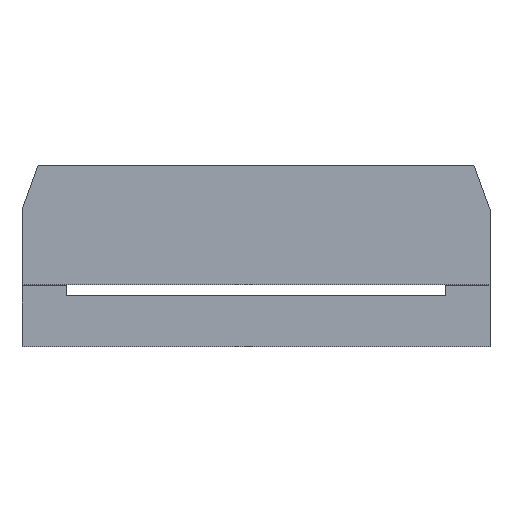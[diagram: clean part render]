
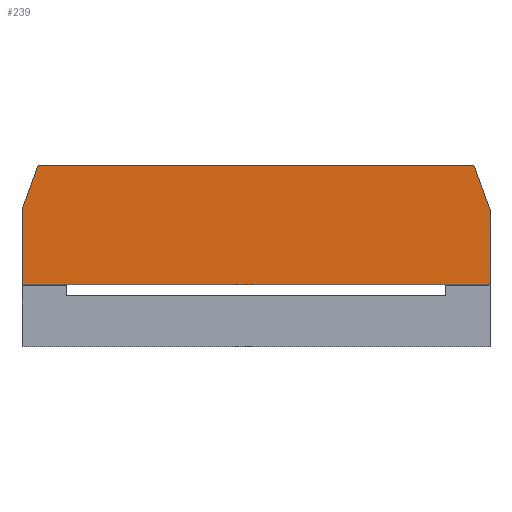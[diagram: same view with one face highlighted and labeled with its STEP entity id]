
A CAD part, front view. The second image highlights one B-rep face of the part: STEP entity #239.
In plain terms, the highlighted planar face has unit normal (0, -1, 0).
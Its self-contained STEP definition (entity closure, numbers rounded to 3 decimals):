
#172 = ORIENTED_EDGE ( 'NONE', *, *, #173, .F. ) ;
#173 = EDGE_CURVE ( 'NONE', #174, #1563, #874, .T. ) ;
#174 = VERTEX_POINT ( 'NONE', #912 ) ;
#175 = ORIENTED_EDGE ( 'NONE', *, *, #252, .T. ) ;
#239 = ADVANCED_FACE ( 'NONE', ( #2605 ), #2603, .F. ) ;
#240 = EDGE_LOOP ( 'NONE', ( #172, #175, #253, #427, #430, #553 ) ) ;
#252 = EDGE_CURVE ( 'NONE', #174, #1983, #2576, .T. ) ;
#253 = ORIENTED_EDGE ( 'NONE', *, *, #1982, .F. ) ;
#427 = ORIENTED_EDGE ( 'NONE', *, *, #428, .T. ) ;
#428 = EDGE_CURVE ( 'NONE', #1955, #429, #2803, .T. ) ;
#429 = VERTEX_POINT ( 'NONE', #2806 ) ;
#430 = ORIENTED_EDGE ( 'NONE', *, *, #552, .T. ) ;
#552 = EDGE_CURVE ( 'NONE', #429, #1562, #2846, .T. ) ;
#553 = ORIENTED_EDGE ( 'NONE', *, *, #1561, .T. ) ;
#871 = DIRECTION ( 'NONE',  ( 0., 0., -1. ) ) ;
#872 = VECTOR ( 'NONE', #871, 1000. ) ;
#873 = CARTESIAN_POINT ( 'NONE',  ( 10.6, -2.1, 5.4 ) ) ;
#874 = LINE ( 'NONE', #873, #872 ) ;
#912 = CARTESIAN_POINT ( 'NONE',  ( 10.6, -2.1, 3.4 ) ) ;
#1561 = EDGE_CURVE ( 'NONE', #1562, #1563, #4064, .T. ) ;
#1562 = VERTEX_POINT ( 'NONE', #4060 ) ;
#1563 = VERTEX_POINT ( 'NONE', #4059 ) ;
#1955 = VERTEX_POINT ( 'NONE', #4426 ) ;
#1982 = EDGE_CURVE ( 'NONE', #1955, #1983, #4474, .T. ) ;
#1983 = VERTEX_POINT ( 'NONE', #4470 ) ;
#2573 = DIRECTION ( 'NONE',  ( -0.342, 0., 0.94 ) ) ;
#2574 = VECTOR ( 'NONE', #2573, 1000. ) ;
#2575 = CARTESIAN_POINT ( 'NONE',  ( 9.872, -2.1, 5.4 ) ) ;
#2576 = LINE ( 'NONE', #2575, #2574 ) ;
#2600 = DIRECTION ( 'NONE',  ( 0., 0., 1. ) ) ;
#2601 = DIRECTION ( 'NONE',  ( 0., 1., 0. ) ) ;
#2602 = CARTESIAN_POINT ( 'NONE',  ( -10.6, -2.1, 5.4 ) ) ;
#2603 = PLANE ( 'NONE',  #2604 ) ;
#2604 = AXIS2_PLACEMENT_3D ( 'NONE', #2602, #2601, #2600 ) ;
#2605 = FACE_OUTER_BOUND ( 'NONE', #240, .T. ) ;
#2730 = DIRECTION ( 'NONE',  ( -0.342, 0., -0.94 ) ) ;
#2803 = LINE ( 'NONE', #2820, #2819 ) ;
#2806 = CARTESIAN_POINT ( 'NONE',  ( -10.6, -2.1, 3.4 ) ) ;
#2819 = VECTOR ( 'NONE', #2730, 1000. ) ;
#2820 = CARTESIAN_POINT ( 'NONE',  ( -9.872, -2.1, 5.4 ) ) ;
#2846 = LINE ( 'NONE', #2871, #2870 ) ;
#2869 = DIRECTION ( 'NONE',  ( 0., 0., -1. ) ) ;
#2870 = VECTOR ( 'NONE', #2869, 1000. ) ;
#2871 = CARTESIAN_POINT ( 'NONE',  ( -10.6, -2.1, 5.4 ) ) ;
#4059 = CARTESIAN_POINT ( 'NONE',  ( 10.6, -2.1, 0. ) ) ;
#4060 = CARTESIAN_POINT ( 'NONE',  ( -10.6, -2.1, 0. ) ) ;
#4061 = DIRECTION ( 'NONE',  ( 1., 0., 0. ) ) ;
#4062 = VECTOR ( 'NONE', #4061, 1000. ) ;
#4063 = CARTESIAN_POINT ( 'NONE',  ( -10.6, -2.1, 0. ) ) ;
#4064 = LINE ( 'NONE', #4063, #4062 ) ;
#4426 = CARTESIAN_POINT ( 'NONE',  ( -9.872, -2.1, 5.4 ) ) ;
#4470 = CARTESIAN_POINT ( 'NONE',  ( 9.872, -2.1, 5.4 ) ) ;
#4471 = DIRECTION ( 'NONE',  ( 1., 0., 0. ) ) ;
#4472 = VECTOR ( 'NONE', #4471, 1000. ) ;
#4473 = CARTESIAN_POINT ( 'NONE',  ( -10.6, -2.1, 5.4 ) ) ;
#4474 = LINE ( 'NONE', #4473, #4472 ) ;
